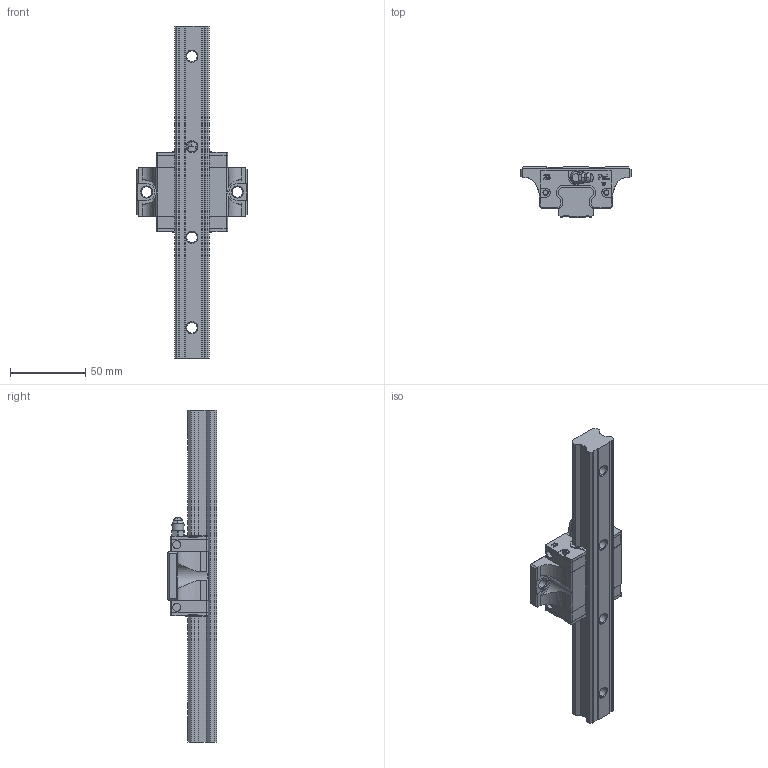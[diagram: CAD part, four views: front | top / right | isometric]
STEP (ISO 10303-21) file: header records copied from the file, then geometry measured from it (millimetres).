
FILE_DESCRIPTION (( 'STEP AP203' ), '1' );
FILE_NAME ('BGCS25FS.STEP', '2025-10-20T06:40:38', ( '' ), ( '' ), 'SwSTEP 2.0', 'SolidWorks 2020', '' );
FILE_SCHEMA (( 'CONFIG_CONTROL_DESIGN' ));
Length unit declared in the file: millimetre
Products named in the file (5): BG25端防塵; NGX02; BGCS25FS; BGXS25FS; BGR25-L220
Assembly tree (5 placements, depth 2):
  BGCS25FS
    BGR25-L220
    BGXS25FS
    BG25端防塵  x2
    NGX02
Bounding box: 72.95 x 33 x 220 mm (x, y, z)
Volume: 137180.4 mm3; surface area: 44142.7 mm2
Topology: 7 solids, 7 shells, 727 faces, 1973 edges, 1303 vertices
Faces by surface type: plane 500, cylinder 134, bspline 52, cone 37, torus 4
Entity records: 18037 total; most frequent: CARTESIAN_POINT 4572, ORIENTED_EDGE 2746, DIRECTION 2552, EDGE_CURVE 1373, VECTOR 990, LINE 990, VERTEX_POINT 903, AXIS2_PLACEMENT_3D 781
